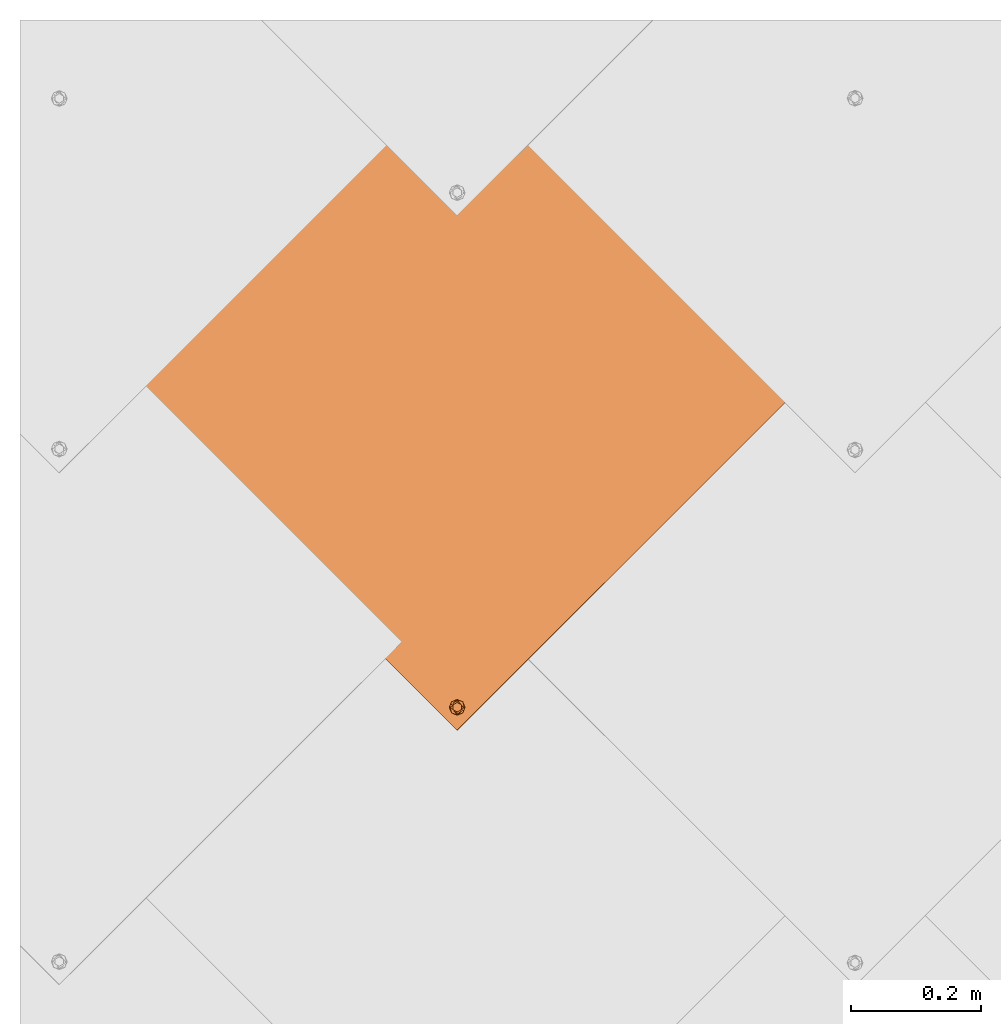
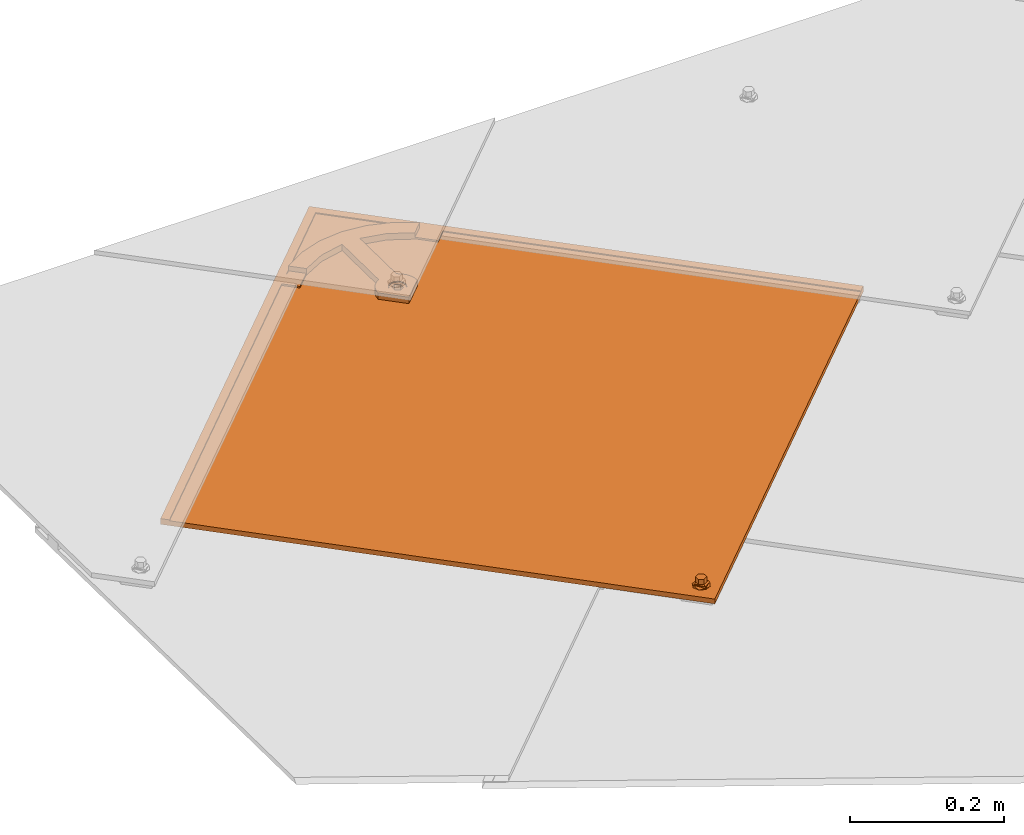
# One storey, part 71 of 133: 1 proxy.
"""IFC2X3 building model written with IfcOpenShell, lengths in millimetres."""

from ifc_helpers import new_model, entity, si_unit, converted_unit, derived_unit, direction, frame, origin, place, context, subcontext, project, spatial, faceted_brep, source, transform, mapped, material, material_list, type_object, type_shapes, element, save


model = new_model("IFC2X3")

# Units and contexts
model_context = context("Model", 3, precision=0.01, world=origin(), true_north=direction((6.12303176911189e-17, 1.0)))
body_context = subcontext(model_context, "Body", "Model", "MODEL_VIEW")
ifc_project = project(units=[si_unit("LENGTHUNIT", "METRE", prefix="MILLI"), si_unit("AREAUNIT", "SQUARE_METRE"), si_unit("VOLUMEUNIT", "CUBIC_METRE"), converted_unit("PLANEANGLEUNIT", "DEGREE", entity("IfcRatioMeasure", 0.0174532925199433), si_unit("PLANEANGLEUNIT", "RADIAN"), dimensions=[0, 0, 0, 0, 0, 0, 0]), si_unit("MASSUNIT", "GRAM", prefix="KILO"), derived_unit("MASSDENSITYUNIT", [(si_unit("MASSUNIT", "GRAM", prefix="KILO"), 1), (si_unit("LENGTHUNIT", "METRE"), -3)]), si_unit("TIMEUNIT", "SECOND"), si_unit("FREQUENCYUNIT", "HERTZ"), si_unit("THERMODYNAMICTEMPERATUREUNIT", "DEGREE_CELSIUS"), derived_unit("THERMALTRANSMITTANCEUNIT", [(si_unit("MASSUNIT", "GRAM", prefix="KILO"), 1), (si_unit("THERMODYNAMICTEMPERATUREUNIT", "KELVIN"), -1), (si_unit("TIMEUNIT", "SECOND"), -3)]), derived_unit("VOLUMETRICFLOWRATEUNIT", [(si_unit("LENGTHUNIT", "METRE"), 3), (si_unit("TIMEUNIT", "SECOND"), -1)]), si_unit("ELECTRICCURRENTUNIT", "AMPERE"), si_unit("ELECTRICVOLTAGEUNIT", "VOLT"), si_unit("POWERUNIT", "WATT"), si_unit("FORCEUNIT", "NEWTON", prefix="KILO"), si_unit("ILLUMINANCEUNIT", "LUX"), si_unit("LUMINOUSFLUXUNIT", "LUMEN"), si_unit("LUMINOUSINTENSITYUNIT", "CANDELA"), derived_unit("USERDEFINED", [(si_unit("MASSUNIT", "GRAM", prefix="KILO"), -1), (si_unit("LENGTHUNIT", "METRE"), -2), (si_unit("TIMEUNIT", "SECOND"), 3), (si_unit("LUMINOUSFLUXUNIT", "LUMEN"), 1)]), derived_unit("LINEARVELOCITYUNIT", [(si_unit("LENGTHUNIT", "METRE"), 1), (si_unit("TIMEUNIT", "SECOND"), -1)]), si_unit("PRESSUREUNIT", "PASCAL"), derived_unit("USERDEFINED", [(si_unit("LENGTHUNIT", "METRE"), -2), (si_unit("MASSUNIT", "GRAM", prefix="KILO"), 1), (si_unit("TIMEUNIT", "SECOND"), -2)])], contexts=[model_context])

# Site, building, storey
site_placement = place(None, origin())
site = spatial("IfcSite", under=ifc_project, at=site_placement, Name="Default", CompositionType="ELEMENT")
building_placement = place(site_placement, origin())
building = spatial("IfcBuilding", under=site, at=building_placement, CompositionType="ELEMENT")
storey_placement = place(building_placement, origin())
storey = spatial("IfcBuildingStorey", under=building, at=storey_placement, Name="Level 1", CompositionType="ELEMENT", Elevation=0.0)

# Proxy
ifc_material_1 = material(Name="Rubber - Sunstyle - Black")
ifc_material_2 = material(Name="Glass - Sunstyle - Tainted Black")
ifc_material_list_1 = material_list([ifc_material_1, ifc_material_2])
ifc_material_list_2 = material_list([ifc_material_1, ifc_material_2])
building_element_proxy_type = type_object("IfcBuildingElementProxyType", Name="Non PV Shingle - Black", PredefinedType="NOTDEFINED", material=ifc_material_list_2)
shared_shape = source(origin(), body_context, "Body", "Brep", [
    faceted_brep([(0.0, -485.159313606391, 4.00636906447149), (-5.77420283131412, -488.492583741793, 4.062193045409), (-5.77420283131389, -488.124274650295, 26.0540623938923), (0.0, -484.791004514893, 25.9982384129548), (-5.77420283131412, -495.159124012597, 4.17384100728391), (-5.7742028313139, -494.790814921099, 26.1657103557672), (0.0, -498.492394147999, 4.2296649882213), (0.0, -498.1240850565, 26.2215343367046), (5.77420283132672, -495.159124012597, 4.17384100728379), (5.77420283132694, -494.790814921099, 26.1657103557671), (5.77420283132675, -488.492583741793, 4.06219304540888), (5.77420283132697, -488.124274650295, 26.0540623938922), (-8.60370416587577, -500.060042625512, 26.2539568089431), (0.0, -503.623313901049, 26.3136327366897), (-12.1674751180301, -491.457544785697, 26.1098863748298), (-8.60370416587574, -482.855046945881, 25.9658159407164), (0.0, -479.291775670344, 25.9061400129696), (8.60370416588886, -482.855046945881, 25.9658159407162), (12.1674751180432, -491.457544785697, 26.1098863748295), (8.60370416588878, -500.060042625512, 26.2539568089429), (-11.3242446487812, -489.162467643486, 28.4227283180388), (-9.75647455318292, -491.386529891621, 30.3502110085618), (0.0, -484.073454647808, 30.9829114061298), (0.0, -482.832957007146, 30.4025647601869), (0.0, -480.675406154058, 29.3931896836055), (0.0, -503.067269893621, 27.5886907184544), (0.0, -502.123693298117, 29.7523951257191), (0.0, -498.67431759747, 31.227439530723), (0.0, -479.804811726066, 27.19910242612), (-6.32324569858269, -495.024101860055, 31.1663074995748), (-6.32324569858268, -487.723670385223, 31.0440434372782), (11.3242446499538, -493.673887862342, 28.4982833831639), (9.84888015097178, -492.460936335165, 30.2713428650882), (6.32324569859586, -487.723670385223, 31.0440434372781), (6.32324569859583, -495.024101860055, 31.1663074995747), (-6.32324569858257, -494.890073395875, 39.1691956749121), (0.0, -498.54028913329, 39.2303277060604), (0.0, -491.239857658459, 39.1080636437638), (-6.32324569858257, -487.589641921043, 39.0469316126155), (6.32324569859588, -494.890073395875, 39.169195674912), (6.32324569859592, -487.589641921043, 39.0469316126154), (0.0, -483.939426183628, 38.9857995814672), (0.0, -491.825853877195, 4.11801702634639)], [[[0, 1, 2, 3]], [[1, 4, 5, 2]], [[4, 6, 7, 5]], [[6, 8, 9, 7]], [[8, 10, 11, 9]], [[10, 0, 3, 11]], [[12, 7, 13]], [[7, 12, 5]], [[14, 5, 12]], [[5, 14, 2]], [[15, 2, 14]], [[3, 2, 15]], [[15, 16, 3]], [[16, 17, 3]], [[11, 3, 17]], [[11, 17, 18]], [[9, 11, 18]], [[18, 19, 9]], [[7, 9, 19]], [[19, 13, 7]], [[20, 14, 12]], [[21, 22, 23, 24]], [[24, 20, 21]], [[25, 20, 12]], [[26, 27, 21]], [[15, 14, 20]], [[12, 13, 25]], [[20, 28, 15]], [[28, 20, 24]], [[21, 27, 29]], [[21, 29, 30]], [[26, 21, 20]], [[20, 25, 26]], [[15, 28, 16]], [[21, 30, 22]], [[31, 18, 17]], [[28, 31, 17]], [[32, 27, 26]], [[26, 31, 32]], [[26, 25, 31]], [[25, 19, 31]], [[17, 16, 28]], [[31, 19, 18]], [[24, 31, 28]], [[33, 34, 32]], [[23, 22, 33]], [[24, 32, 31]], [[27, 32, 34]], [[32, 23, 33]], [[19, 25, 13]], [[32, 24, 23]], [[35, 36, 37]], [[37, 38, 35]], [[36, 39, 37]], [[40, 37, 39]], [[37, 40, 41]], [[37, 41, 38]], [[42, 6, 4]], [[4, 1, 42]], [[1, 0, 42]], [[42, 8, 6]], [[0, 10, 42]], [[8, 42, 10]], [[22, 30, 38, 41]], [[30, 29, 35, 38]], [[29, 27, 36, 35]], [[27, 34, 39, 36]], [[34, 33, 40, 39]], [[33, 22, 41, 40]]]),
    faceted_brep([(0.0, 284.789208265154, 20.3195200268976), (0.0, 289.288576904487, 20.2441667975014), (-8.60370416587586, 288.352479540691, 20.259844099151), (8.60370416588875, 288.352479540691, 20.2598440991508), (6.64022859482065, 293.121777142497, 20.1799702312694), (12.1674751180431, 296.954977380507, 20.1157736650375), (6.64022859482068, 300.788177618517, 20.0515770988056), (8.60370416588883, 305.557475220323, 19.9717032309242), (0.0, 304.621377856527, 19.9873805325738), (0.0, 309.12074649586, 19.9120273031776), (-8.60370416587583, 305.557475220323, 19.9717032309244), (-6.64022859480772, 300.788177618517, 20.0515770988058), (-12.1674751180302, 296.954977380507, 20.1157736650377), (-6.64022859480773, 293.121777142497, 20.1799702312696), (-6.6402282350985, 300.520254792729, 4.05382046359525), (0.0, 304.35345482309, 3.9896239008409), (-6.64022823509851, 292.853854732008, 4.18221358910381), (0.0, 289.020654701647, 4.24641015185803), (6.64022823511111, 292.853854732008, 4.18221358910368), (6.64022823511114, 300.520254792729, 4.05382046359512), (-8.60370416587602, 288.084556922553, 4.26208746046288), (0.0, 284.521285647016, 4.32176338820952), (-12.1674751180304, 296.687054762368, 4.11801702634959), (-8.603704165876, 305.289552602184, 3.97394659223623), (0.0, 308.852823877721, 3.91427066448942), (8.60370416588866, 305.289552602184, 3.97394659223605), (12.167475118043, 296.687054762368, 4.11801702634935), (8.60370416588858, 288.084556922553, 4.26208746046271)], [[[0, 1, 2]], [[1, 0, 3]], [[3, 4, 1]], [[4, 3, 5]], [[6, 4, 5]], [[5, 7, 6]], [[7, 8, 6]], [[8, 7, 9]], [[8, 9, 10]], [[10, 11, 8]], [[12, 11, 10]], [[2, 13, 12]], [[12, 13, 11]], [[13, 2, 1]], [[8, 11, 14, 15]], [[11, 13, 16, 14]], [[13, 1, 17, 16]], [[1, 4, 18, 17]], [[4, 6, 19, 18]], [[6, 8, 15, 19]], [[20, 17, 21]], [[17, 20, 16]], [[22, 16, 20]], [[14, 16, 22]], [[23, 14, 22]], [[15, 14, 23]], [[23, 24, 15]], [[24, 25, 15]], [[19, 15, 25]], [[19, 25, 26]], [[26, 18, 19]], [[26, 27, 18]], [[17, 18, 27]], [[27, 21, 17]], [[24, 23, 10, 9]], [[10, 23, 22, 12]], [[20, 21, 0, 2]], [[20, 2, 12, 22]], [[21, 27, 3, 0]], [[3, 27, 26, 5]], [[25, 24, 9, 7]], [[25, 7, 5, 26]]]),
    faceted_brep([(518.347125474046, -8.50591218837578, 16.4460771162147), (526.831811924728, -0.0212257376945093, 16.3039797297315), (526.831811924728, 0.00389200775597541, 17.8037694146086), (518.347125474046, -8.48079444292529, 17.9458668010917), (0.000322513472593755, 509.695546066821, 7.76749207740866), (-518.346480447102, -8.50591218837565, 16.4460771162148), (-526.831166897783, -0.021225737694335, 16.3039797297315), (0.000322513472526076, 526.662539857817, 7.48333714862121), (0.000322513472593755, 526.687657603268, 8.98312683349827), (-526.831166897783, 0.00389200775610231, 17.8037694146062), (-518.346480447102, -8.48079444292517, 17.9458668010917), (0.000322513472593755, 509.720663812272, 9.26728176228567)], [[[0, 1, 2, 3]], [[1, 0, 4, 5, 6, 7]], [[2, 1, 7, 8]], [[3, 2, 8, 9, 10, 11]], [[0, 3, 11, 4]], [[5, 10, 9, 6]], [[8, 7, 6, 9]], [[4, 11, 10, 5]]]),
    faceted_brep([(0.000322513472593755, 526.662539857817, 7.48333714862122), (-3.10582854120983, 308.054627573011, 11.1444757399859), (0.0, 308.46346032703, 11.1376288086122), (-6.0, 306.855990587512, 11.1645499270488), (3.10582854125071, 308.054627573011, 11.1444757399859), (6.0, 306.855990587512, 11.1645499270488), (8.4852813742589, 304.949234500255, 11.1964833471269), (10.3923048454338, 302.464301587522, 11.2380997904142), (-8.48528137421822, 304.949234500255, 11.1964833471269), (-10.3923048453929, 302.464301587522, 11.2380997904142), (-11.5911099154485, 299.570535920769, 11.2865631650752), (-526.831166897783, -0.0212257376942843, 16.3039797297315), (11.5911099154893, 299.570535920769, 11.2865631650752), (526.831811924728, -0.021225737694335, 16.3039797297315), (-12.0, 296.465142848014, 11.3385707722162), (-11.5911099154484, 293.359749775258, 11.3905783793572), (-10.392304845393, 290.465984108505, 11.4390417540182), (-8.48528137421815, 287.981051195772, 11.4806581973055), (-6.0, 286.074295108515, 11.5125916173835), (-3.10582854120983, 284.875658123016, 11.5326658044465), (-2.07055236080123, -483.623303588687, 24.4031112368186), (-4.0, -484.422394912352, 24.4164940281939), (-5.65685424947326, -485.693565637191, 24.4377829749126), (-6.92820323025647, -487.350187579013, 24.4655272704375), (-7.72740661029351, -489.279364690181, 24.4978361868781), (-8.0, -491.349626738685, 24.5325079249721), (-7.72740661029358, -493.419888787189, 24.5671796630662), (0.000322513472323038, -526.704991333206, 25.1246223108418), (-6.92820323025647, -495.349065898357, 24.5994885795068), (-5.65685424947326, -497.005687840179, 24.6272328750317), (-4.0, -498.276858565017, 24.6485218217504), (-2.0705523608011, -499.075949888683, 24.6619046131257), (0.0, -499.348505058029, 24.6664692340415), (2.07055236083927, -499.075949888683, 24.6619046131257), (4.0, -498.276858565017, 24.6485218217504), (5.65685424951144, -497.005687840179, 24.6272328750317), (6.92820323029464, -495.349065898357, 24.5994885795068), (7.72740661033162, -493.419888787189, 24.5671796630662), (12.0, 296.465142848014, 11.3385707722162), (11.5911099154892, 293.359749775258, 11.3905783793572), (10.3923048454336, 290.465984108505, 11.4390417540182), (8.4852813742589, 287.981051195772, 11.4806581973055), (6.0, 286.074295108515, 11.5125916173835), (3.10582854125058, 284.875658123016, 11.5326658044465), (2.07055236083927, -483.623303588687, 24.4031112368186), (4.0, -484.422394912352, 24.4164940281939), (5.65685424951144, -485.69356563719, 24.4377829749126), (8.0, -491.349626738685, 24.5325079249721), (7.72740661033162, -489.279364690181, 24.4978361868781), (6.92820323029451, -487.350187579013, 24.4655272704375), (0.0, 284.466825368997, 11.5395127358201), (0.0, -483.350748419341, 24.3985466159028), (-526.831166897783, -0.146814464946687, 8.80503130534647), (-6.92820323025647, -487.475776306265, 16.9665788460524), (-7.72740661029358, -489.404953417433, 16.9988877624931), (-5.65685424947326, -485.819154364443, 16.9388345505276), (-8.0, -491.475215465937, 17.0335595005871), (-7.72740661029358, -493.545477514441, 17.0682312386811), (0.000322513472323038, -526.830580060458, 17.6256738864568), (-4.0, -484.547983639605, 16.9175456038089), (-2.07055236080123, -483.748892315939, 16.9041628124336), (-3.10582854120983, 284.750069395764, 4.03371738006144), (-6.0, 285.948706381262, 4.01364319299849), (-8.48528137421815, 287.85546246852, 3.98170977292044), (-10.392304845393, 290.340395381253, 3.94009332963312), (-11.5911099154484, 293.234161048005, 3.89162995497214), (-12.0, 296.339554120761, 3.83962234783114), (-11.5911099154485, 299.444947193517, 3.78761474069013), (0.000322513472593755, 526.536951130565, -0.0156112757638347), (-10.3923048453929, 302.338712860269, 3.73915136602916), (-8.48528137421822, 304.823645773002, 3.69753492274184), (-6.0, 306.73040186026, 3.66560150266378), (-3.10582854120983, 307.929038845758, 3.64552731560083), (0.0, 308.337871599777, 3.63868038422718), (3.10582854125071, 307.929038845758, 3.64552731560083), (6.0, 306.73040186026, 3.66560150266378), (8.4852813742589, 304.823645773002, 3.69753492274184), (10.3923048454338, 302.338712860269, 3.73915136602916), (11.5911099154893, 299.444947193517, 3.78761474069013), (526.831811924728, -0.146814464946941, 8.80503130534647), (7.72740661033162, -493.545477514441, 17.0682312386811), (8.0, -491.475215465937, 17.0335595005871), (7.72740661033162, -489.404953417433, 16.9988877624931), (6.92820323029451, -487.475776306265, 16.9665788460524), (5.65685424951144, -485.819154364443, 16.9388345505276), (4.0, -484.547983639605, 16.9175456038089), (2.07055236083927, -483.748892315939, 16.9041628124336), (3.10582854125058, 284.750069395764, 4.03371738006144), (6.0, 285.948706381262, 4.01364319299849), (12.0, 296.339554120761, 3.83962234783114), (11.5911099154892, 293.234161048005, 3.89162995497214), (10.3923048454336, 290.340395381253, 3.94009332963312), (8.4852813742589, 287.85546246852, 3.98170977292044), (0.0, 284.341236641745, 4.04056431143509), (0.0, -483.476337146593, 16.8995981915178), (-6.92820323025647, -495.474654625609, 17.1005401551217), (-5.65685424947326, -497.131276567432, 17.1282844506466), (-4.0, -498.40244729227, 17.1495733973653), (-2.0705523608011, -499.201538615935, 17.1629561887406), (0.0, -499.474093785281, 17.1675208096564), (2.07055236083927, -499.201538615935, 17.1629561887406), (4.0, -498.40244729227, 17.1495733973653), (5.65685424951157, -497.131276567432, 17.1282844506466), (6.92820323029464, -495.474654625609, 17.1005401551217)], [[[0, 1, 2]], [[1, 0, 3]], [[0, 2, 4]], [[4, 5, 0]], [[5, 6, 0]], [[0, 6, 7]], [[8, 3, 0]], [[9, 8, 0]], [[9, 0, 10]], [[10, 0, 11]], [[12, 0, 7]], [[12, 13, 0]], [[11, 14, 10]], [[14, 11, 15]], [[16, 15, 11]], [[16, 11, 17]], [[18, 17, 11]], [[11, 19, 18]], [[19, 11, 20]], [[21, 20, 11]], [[11, 22, 21]], [[22, 11, 23]], [[23, 11, 24]], [[25, 24, 11]], [[25, 11, 26]], [[26, 11, 27]], [[27, 28, 26]], [[29, 28, 27]], [[30, 29, 27]], [[31, 30, 27]], [[27, 32, 31]], [[32, 27, 33]], [[34, 33, 27]], [[34, 27, 35]], [[36, 35, 27]], [[37, 36, 27]], [[37, 27, 13]], [[12, 38, 13]], [[39, 13, 38]], [[13, 39, 40]], [[13, 40, 41]], [[41, 42, 13]], [[42, 43, 13]], [[13, 43, 44]], [[45, 13, 44]], [[46, 13, 45]], [[47, 37, 13]], [[48, 47, 13]], [[49, 48, 13]], [[46, 49, 13]], [[20, 50, 19]], [[51, 50, 20]], [[44, 50, 51]], [[43, 50, 44]], [[52, 53, 54]], [[53, 52, 55]], [[52, 54, 56]], [[56, 57, 52]], [[52, 57, 58]], [[59, 55, 52]], [[60, 59, 52]], [[60, 52, 61]], [[61, 52, 62]], [[63, 62, 52]], [[64, 63, 52]], [[65, 64, 52]], [[66, 65, 52]], [[66, 52, 67]], [[52, 68, 67]], [[69, 67, 68]], [[70, 69, 68]], [[68, 71, 70]], [[71, 68, 72]], [[72, 68, 73]], [[74, 73, 68]], [[74, 68, 75]], [[76, 75, 68]], [[68, 77, 76]], [[77, 68, 78]], [[68, 79, 78]], [[58, 80, 79]], [[81, 79, 80]], [[81, 82, 79]], [[82, 83, 79]], [[84, 79, 83]], [[79, 84, 85]], [[85, 86, 79]], [[87, 79, 86]], [[87, 88, 79]], [[89, 78, 79]], [[79, 90, 89]], [[90, 79, 91]], [[92, 91, 79]], [[92, 79, 88]], [[93, 60, 61]], [[93, 86, 94]], [[94, 60, 93]], [[87, 86, 93]], [[58, 57, 95]], [[96, 58, 95]], [[96, 97, 58]], [[97, 98, 58]], [[99, 58, 98]], [[58, 99, 100]], [[58, 100, 101]], [[101, 102, 58]], [[102, 103, 58]], [[103, 80, 58]], [[11, 0, 68, 52]], [[27, 11, 52, 58]], [[13, 27, 58, 79]], [[0, 13, 79, 68]], [[25, 56, 54, 24]], [[24, 54, 53, 23]], [[21, 22, 55, 59]], [[55, 22, 23, 53]], [[20, 21, 59, 60]], [[20, 60, 94, 51]], [[51, 94, 86, 44]], [[44, 86, 85, 45]], [[49, 46, 84, 83]], [[84, 46, 45, 85]], [[48, 49, 83, 82]], [[48, 82, 81, 47]], [[47, 81, 80, 37]], [[37, 80, 103, 36]], [[34, 35, 102, 101]], [[102, 35, 36, 103]], [[33, 34, 101, 100]], [[33, 100, 99, 32]], [[32, 99, 98, 31]], [[31, 98, 97, 30]], [[28, 29, 96, 95]], [[96, 29, 30, 97]], [[26, 28, 95, 57]], [[26, 57, 56, 25]], [[14, 66, 67, 10]], [[10, 67, 69, 9]], [[3, 8, 70, 71]], [[70, 8, 9, 69]], [[1, 3, 71, 72]], [[1, 72, 73, 2]], [[2, 73, 74, 4]], [[4, 74, 75, 5]], [[7, 6, 76, 77]], [[76, 6, 5, 75]], [[12, 7, 77, 78]], [[12, 78, 89, 38]], [[38, 89, 90, 39]], [[39, 90, 91, 40]], [[42, 41, 92, 88]], [[40, 91, 92, 41]], [[87, 43, 42, 88]], [[43, 87, 93, 50]], [[50, 93, 61, 19]], [[19, 61, 62, 18]], [[16, 17, 63, 64]], [[63, 17, 18, 62]], [[15, 16, 64, 65]], [[15, 65, 66, 14]]]),
    faceted_brep([(-103.640919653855, 371.082989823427, 12.5892580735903), (-81.5635806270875, 393.15723338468, 12.2195694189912), (-98.1147183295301, 409.705441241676, 11.9424281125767), (-106.2656930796, 403.014562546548, 12.0544836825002), (-113.962762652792, 395.806279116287, 12.1752044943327), (-121.16572423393, 388.605337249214, 12.295802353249), (121.446435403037, 388.886009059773, 12.2911017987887), (110.715435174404, 399.614000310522, 12.1114346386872), (104.744439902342, 405.287275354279, 12.0164213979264), (98.4920378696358, 410.648923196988, 11.9266271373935), (98.074476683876, 410.231479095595, 11.933618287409), (98.234751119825, 410.108922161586, 11.9356708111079), (98.3948723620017, 409.986165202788, 11.9377266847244), (81.6917048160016, 393.285339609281, 12.2174239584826), (103.769043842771, 371.211096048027, 12.5871126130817), (-23.2046504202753, 315.000563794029, 21.029550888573), (-8.48528137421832, 305.451589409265, 21.1894724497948), (-18.7041061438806, 319.633569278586, 20.951959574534), (-10.392304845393, 302.966656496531, 21.2310888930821), (-26.5842195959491, 309.496413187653, 21.1217317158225), (-11.5911099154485, 300.072890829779, 21.2795522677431), (-28.6795527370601, 303.387013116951, 21.2240489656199), (-12.0, 296.967497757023, 21.3315598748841), (-29.3894280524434, 296.967497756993, 21.3315598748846), (-11.5911099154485, 293.862104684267, 21.3835674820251), (-10.392304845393, 290.968339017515, 21.4320308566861), (-8.48528137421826, 288.483406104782, 21.4736472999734), (0.0, 267.58219039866, 21.8236906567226), (-6.0, 286.576650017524, 21.5055807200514), (-3.10582854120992, 285.378013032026, 21.5256549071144), (0.0, 284.969180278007, 21.532501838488), (3.10582854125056, 285.378013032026, 21.5256549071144), (6.0, 286.576650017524, 21.5055807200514), (8.48528137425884, 288.483406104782, 21.4736472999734), (29.389428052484, 296.967497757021, 21.3315598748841), (10.3923048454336, 290.968339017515, 21.4320308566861), (11.5911099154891, 293.862104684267, 21.3835674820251), (12.0, 296.967497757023, 21.3315598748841), (28.6795527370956, 303.387013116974, 21.2240489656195), (11.5911099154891, 300.072890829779, 21.2795522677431), (26.5842195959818, 309.49641318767, 21.1217317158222), (10.3923048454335, 302.966656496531, 21.2310888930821), (23.2046504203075, 315.000563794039, 21.0295508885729), (8.48528137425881, 305.451589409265, 21.1894724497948), (18.7041061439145, 319.633569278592, 20.9519595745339), (6.0, 307.358345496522, 21.1575390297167), (13.3000000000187, 323.171617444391, 20.8927060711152), (3.10582854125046, 308.55698248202, 21.1374648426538), (0.0, 308.965815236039, 21.1306179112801), (-13.2999999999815, 323.171617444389, 20.8927060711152), (-13.2999999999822, 418.050603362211, 19.3037191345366), (13.3000000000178, 418.050603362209, 19.3037191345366), (0.0, 443.522216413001, 18.8771329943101), (34.9852699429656, 439.689674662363, 18.9413185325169), (48.8881158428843, 409.917561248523, 19.4399273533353), (68.3106161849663, 428.373889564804, 19.1308297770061), (81.1868897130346, 392.906184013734, 19.7248255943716), (98.3948723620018, 410.11175393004, 19.4366751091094), (-34.9852699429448, 439.689674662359, 18.941318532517), (-48.8881158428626, 409.917561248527, 19.4399273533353), (-68.3106161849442, 428.373889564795, 19.1308297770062), (-81.1868897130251, 392.906184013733, 19.7248255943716), (-98.3948723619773, 410.111753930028, 19.4366751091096), (-6.0, 307.358345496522, 21.1575390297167), (-3.10582854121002, 308.55698248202, 21.1374648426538), (0.0, 267.414738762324, 11.8250927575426), (0.0, 284.80172864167, 11.533903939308), (3.10582854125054, 285.210561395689, 11.5270570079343), (-3.10582854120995, 285.210561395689, 11.5270570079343), (6.0, 286.409198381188, 11.5069828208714), (8.48528137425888, 288.315954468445, 11.4750494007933), (29.389428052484, 296.800046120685, 11.332961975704), (-6.0, 286.409198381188, 11.5069828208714), (-8.48528137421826, 288.315954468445, 11.4750494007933), (-29.3894280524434, 296.800046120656, 11.3329619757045), (-10.392304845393, 290.800887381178, 11.433432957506), (-11.5911099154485, 293.694653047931, 11.384969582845), (-12.0, 296.800046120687, 11.332961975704), (-28.6795527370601, 303.219561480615, 11.2254510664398), (-11.5911099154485, 299.905439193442, 11.280954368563), (-26.5842195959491, 309.328961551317, 11.1231338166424), (-10.392304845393, 302.799204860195, 11.232490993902), (-23.2046504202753, 314.833112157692, 11.030952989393), (-8.48528137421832, 305.284137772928, 11.1908745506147), (-18.7041061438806, 319.466117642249, 10.9533616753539), (-6.0, 307.190893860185, 11.1589411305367), (-13.2999999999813, 323.004165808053, 10.8941081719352), (-3.10582854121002, 308.389530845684, 11.1388669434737), (0.0, 308.798363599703, 11.1320200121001), (13.3000000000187, 323.004165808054, 10.8941081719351), (13.3000000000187, 417.883151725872, 9.30512123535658), (-13.2999999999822, 417.883151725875, 9.30512123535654), (-0.199443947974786, 443.35464169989, 8.87853715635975), (-35.1150635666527, 439.493384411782, 8.94320360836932), (-48.8881158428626, 409.75010961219, 9.44132945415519), (-68.3708539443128, 428.178324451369, 9.13270270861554), (-81.5627248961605, 393.11622608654, 9.71990561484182), (-81.1868897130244, 392.738732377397, 9.72622769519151), (-98.1143736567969, 409.663842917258, 9.44277420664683), (-106.2656930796, 402.972699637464, 9.5548342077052), (-103.640919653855, 371.041126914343, 10.0896085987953), (-113.962762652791, 395.764416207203, 9.67555501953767), (-121.16572423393, 388.56347434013, 9.79615287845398), (-98.3948723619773, 409.944302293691, 9.43807720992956), (34.7256001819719, 439.579582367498, 8.94176000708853), (48.8881158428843, 409.750109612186, 9.44132945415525), (68.0092206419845, 428.346649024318, 9.12988369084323), (81.6917048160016, 393.243476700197, 9.71777448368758), (98.0744766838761, 410.189616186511, 9.43396881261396), (104.744439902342, 405.245412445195, 9.51677192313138), (98.4920378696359, 410.607060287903, 9.42697766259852), (110.715435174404, 399.572137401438, 9.61178516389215), (103.769043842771, 371.169233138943, 10.0874631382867), (121.446435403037, 388.844146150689, 9.7914523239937), (81.1868897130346, 392.738732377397, 9.7262276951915), (3.10582854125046, 308.389530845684, 11.1388669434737), (6.0, 307.190893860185, 11.1589411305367), (18.7041061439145, 319.466117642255, 10.9533616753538), (8.48528137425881, 305.284137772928, 11.1908745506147), (23.2046504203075, 314.833112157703, 11.0309529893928), (10.3923048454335, 302.799204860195, 11.232490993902), (26.5842195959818, 309.328961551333, 11.1231338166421), (11.5911099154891, 299.905439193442, 11.280954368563), (28.6795527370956, 303.219561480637, 11.2254510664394), (12.0, 296.800046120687, 11.332961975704), (10.3923048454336, 290.800887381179, 11.433432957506), (11.5911099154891, 293.694653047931, 11.384969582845)], [[[0, 1, 2, 3, 4, 5]], [[6, 7, 8, 9, 10, 11, 12, 13, 14]], [[15, 16, 17]], [[18, 16, 15]], [[19, 18, 15]], [[20, 18, 19]], [[19, 21, 20]], [[21, 22, 20]], [[22, 21, 23]], [[24, 22, 23]], [[25, 24, 23]], [[25, 23, 26]], [[23, 27, 26]], [[28, 26, 27]], [[28, 27, 29]], [[27, 30, 29]], [[30, 27, 31]], [[31, 27, 32]], [[33, 32, 27]], [[33, 27, 34]], [[34, 35, 33]], [[36, 35, 34]], [[37, 36, 34]], [[34, 38, 37]], [[39, 37, 38]], [[38, 40, 39]], [[40, 41, 39]], [[41, 40, 42]], [[43, 41, 42]], [[42, 44, 43]], [[45, 43, 44]], [[44, 46, 45]], [[45, 46, 47]], [[47, 46, 48]], [[46, 49, 48]], [[46, 50, 49]], [[46, 51, 50]], [[52, 50, 51]], [[51, 53, 52]], [[51, 54, 53]], [[53, 54, 55]], [[54, 56, 55]], [[56, 57, 55]], [[58, 50, 52]], [[50, 58, 59]], [[60, 59, 58]], [[60, 61, 59]], [[61, 60, 62]], [[63, 49, 17]], [[63, 64, 49]], [[49, 64, 48]], [[63, 17, 16]], [[65, 66, 67]], [[66, 65, 68]], [[65, 67, 69]], [[69, 70, 65]], [[65, 70, 71]], [[72, 68, 65]], [[72, 65, 73]], [[73, 65, 74]], [[74, 75, 73]], [[75, 74, 76]], [[76, 74, 77]], [[78, 77, 74]], [[79, 77, 78]], [[78, 80, 79]], [[79, 80, 81]], [[80, 82, 81]], [[83, 81, 82]], [[84, 83, 82]], [[84, 85, 83]], [[86, 85, 84]], [[86, 87, 85]], [[88, 87, 86]], [[89, 88, 86]], [[89, 86, 90]], [[91, 90, 86]], [[91, 92, 90]], [[92, 91, 93]], [[94, 93, 91]], [[93, 94, 95]], [[94, 96, 95]], [[94, 97, 96]], [[98, 95, 96]], [[99, 98, 96]], [[96, 100, 99]], [[99, 100, 101]], [[102, 101, 100]], [[95, 98, 103]], [[104, 90, 92]], [[90, 104, 105]], [[106, 105, 104]], [[107, 105, 106]], [[106, 108, 107]], [[108, 109, 107]], [[109, 108, 110]], [[111, 107, 109]], [[111, 112, 107]], [[113, 112, 111]], [[107, 114, 105]], [[115, 88, 89]], [[116, 115, 89]], [[116, 89, 117]], [[117, 118, 116]], [[119, 118, 117]], [[119, 120, 118]], [[119, 121, 120]], [[121, 122, 120]], [[122, 121, 123]], [[71, 124, 123]], [[124, 122, 123]], [[71, 70, 125]], [[125, 126, 71]], [[126, 124, 71]], [[49, 50, 91, 86]], [[17, 49, 86, 84]], [[15, 17, 84, 82]], [[82, 80, 19, 15]], [[21, 19, 80, 78]], [[23, 21, 78, 74]], [[27, 23, 74, 65]], [[0, 5, 102, 100]], [[34, 27, 65, 71]], [[6, 14, 112, 113]], [[38, 34, 71, 123]], [[40, 38, 123, 121]], [[121, 119, 42, 40]], [[44, 42, 119, 117]], [[46, 44, 117, 89]], [[51, 46, 89, 90]], [[11, 10, 57]], [[108, 106, 10]], [[10, 106, 55]], [[12, 11, 57]], [[57, 10, 55]], [[106, 53, 55]], [[106, 104, 53]], [[52, 104, 92]], [[92, 93, 58]], [[95, 60, 93]], [[52, 92, 58]], [[95, 62, 60]], [[60, 58, 93]], [[62, 95, 103]], [[104, 52, 53]], [[22, 77, 79, 20]], [[20, 79, 81, 18]], [[63, 16, 83, 85]], [[81, 83, 16, 18]], [[64, 63, 85, 87]], [[88, 48, 64, 87]], [[47, 115, 116, 45]], [[45, 116, 118, 43]], [[39, 41, 120, 122]], [[118, 120, 41, 43]], [[37, 39, 122, 124]], [[47, 48, 88, 115]], [[37, 124, 126, 36]], [[36, 126, 125, 35]], [[32, 33, 70, 69]], [[125, 70, 33, 35]], [[31, 32, 69, 67]], [[66, 30, 31, 67]], [[29, 68, 72, 28]], [[28, 72, 73, 26]], [[24, 25, 75, 76]], [[73, 75, 25, 26]], [[22, 24, 76, 77]], [[29, 30, 66, 68]], [[7, 6, 113, 111]], [[7, 111, 109, 8]], [[109, 110, 9, 8]], [[14, 13, 107, 112]], [[1, 0, 100, 96]], [[2, 98, 3]], [[3, 98, 99]], [[99, 101, 4, 3]], [[5, 4, 101, 102]], [[97, 94, 59, 61]], [[91, 50, 59, 94]], [[90, 105, 54, 51]], [[114, 56, 54, 105]], [[10, 9, 110, 108]], [[62, 2, 1]], [[2, 62, 103]], [[61, 62, 1, 97]], [[103, 98, 2]], [[96, 97, 1]], [[57, 56, 114, 107, 13, 12]]]),
])
type_shapes(building_element_proxy_type, [shared_shape])
proxy_placement = place(storey_placement, frame((-18375.6614881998, 16253.9473655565, 0.0)))
element("IfcBuildingElementProxy", 1, at=proxy_placement, inside=storey, type_object=building_element_proxy_type, material=ifc_material_list_1, Name="Roofing_Panels_SunStyle_Tile_Non-PV-Shingle:Non PV Shingle - Black", ObjectType="Roofing_Panels_SunStyle_Tile_Non-PV-Shingle:Non PV Shingle - Black", context=body_context, shape_type="MappedRepresentation", body=[
    mapped(shared_shape, transform((0.0, 0.0, 0.0), scale=1.0)),
])

save(model, "model.ifc")
